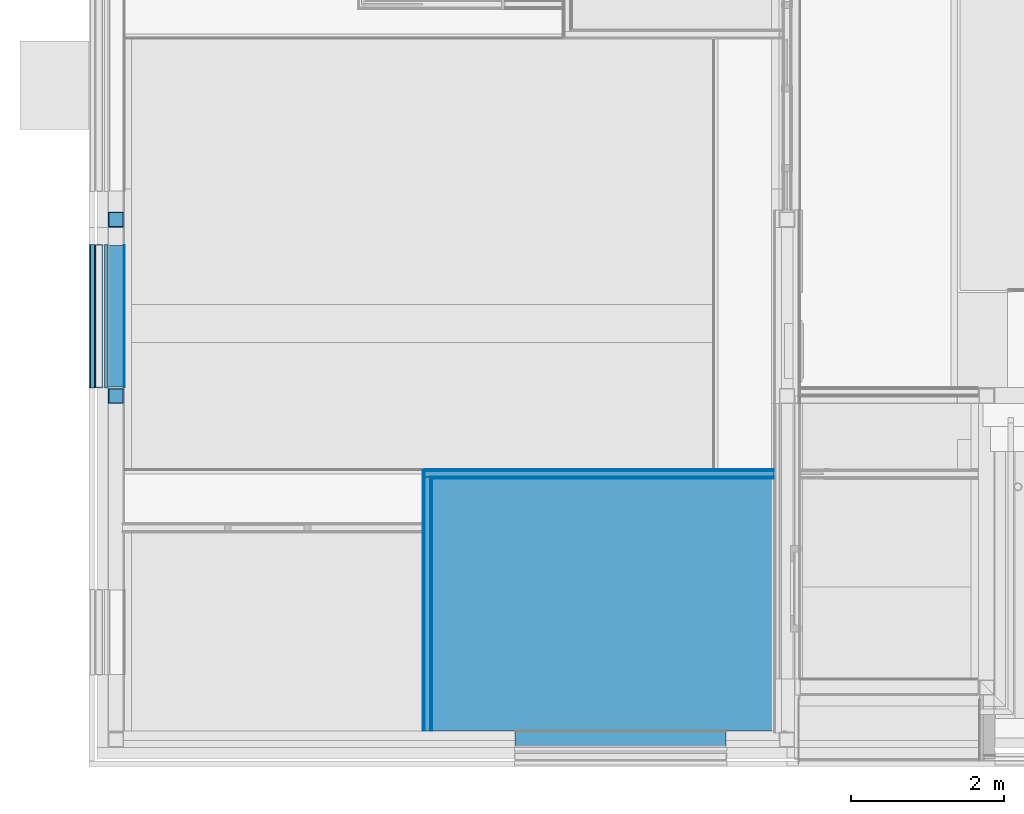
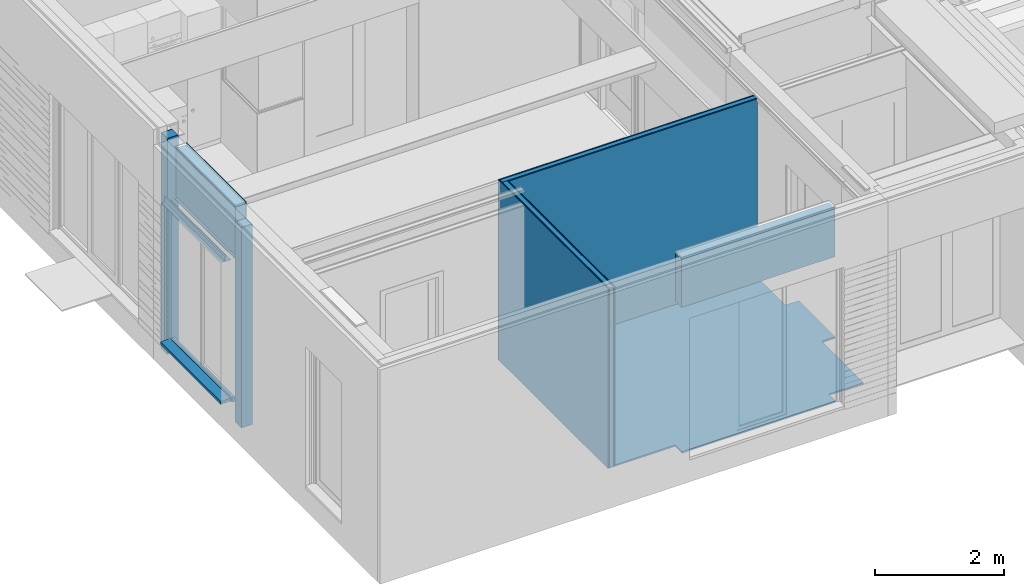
# One storey, part 39 of 165: 23 building element parts, 9 elements without a shape of their own.
"""IFC2X3 building model written with IfcOpenShell, lengths in millimetres."""

from ifc_helpers import new_model, entity, si_unit, converted_unit, derived_unit, money_unit, direction, frame, origin_with_axes, place, context, subcontext, project, spatial, faceted_brep, material, type_object, element, aggregate, save


model = new_model("IFC2X3")

# Units and contexts
model_context = context("Model", 3, precision=0.01, world=origin_with_axes(), true_north=direction((0.0, 1.0)))
body_context = subcontext(model_context, "Body", "Model", "MODEL_VIEW")
ifc_project = project(units=[si_unit("LENGTHUNIT", "METRE", prefix="MILLI"), si_unit("AREAUNIT", "SQUARE_METRE"), si_unit("VOLUMEUNIT", "CUBIC_METRE"), converted_unit("PLANEANGLEUNIT", "DEGREE", entity("IfcPlaneAngleMeasure", 0.0174532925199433), si_unit("PLANEANGLEUNIT", "RADIAN"), dimensions=[0, 0, 0, 0, 0, 0, 0]), money_unit("EUR"), converted_unit("TIMEUNIT", "Year", entity("IfcTimeMeasure", 31556926.0), si_unit("TIMEUNIT", "SECOND"), dimensions=[0, 0, 1, 0, 0, 0, 0]), si_unit("MASSUNIT", "GRAM", prefix="KILO"), si_unit("THERMODYNAMICTEMPERATUREUNIT", "DEGREE_CELSIUS"), si_unit("LUMINOUSINTENSITYUNIT", "LUMEN"), si_unit("ENERGYUNIT", "JOULE", prefix="MEGA"), derived_unit("THERMALCONDUCTANCEUNIT", [(si_unit("POWERUNIT", "WATT"), 1), (si_unit("LENGTHUNIT", "METRE"), -1), (si_unit("THERMODYNAMICTEMPERATUREUNIT", "KELVIN"), -1)]), derived_unit("SPECIFICHEATCAPACITYUNIT", [(si_unit("ENERGYUNIT", "JOULE"), 1), (si_unit("MASSUNIT", "GRAM", prefix="KILO"), -1), (si_unit("THERMODYNAMICTEMPERATUREUNIT", "KELVIN"), -1)]), derived_unit("MASSDENSITYUNIT", [(si_unit("MASSUNIT", "GRAM", prefix="KILO"), 1), (si_unit("VOLUMEUNIT", "CUBIC_METRE"), -1)])], contexts=[model_context])

# Site, building, storey
site_placement = place(None, origin_with_axes())
site = spatial("IfcSite", under=ifc_project, at=site_placement, Name="Site", CompositionType="ELEMENT")
building_placement = place(site_placement, origin_with_axes())
building = spatial("IfcBuilding", under=site, at=building_placement, Name="Naam gebouw", CompositionType="ELEMENT")
storey_placement = place(building_placement, origin_with_axes())
storey = spatial("IfcBuildingStorey", under=building, at=storey_placement, Name="Begane grond", CompositionType="ELEMENT", Elevation=0.0)

# Proxy, building element parts
building_element_proxy_type = type_object("IfcBuildingElementProxyType", Name="22 Metal stud 125 gips 125", PredefinedType="NOTDEFINED")
proxy_1_placement = place(storey_placement, frame((4099.999999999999, 3624.995712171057, -100.0), z_axis=(0.0, 0.0, 1.0), x_axis=(1.0, 0.0, 0.0)))
proxy_1 = element("IfcBuildingElementProxy", 1, at=proxy_1_placement, inside=storey, type_object=building_element_proxy_type, Name="_Wand-x")
ifc_material_1 = material(Name="Gipsplaat")
building_element_part_1_placement = place(proxy_1_placement, origin_with_axes())
building_element_part_1 = element("IfcBuildingElementPart", 2, at=building_element_part_1_placement, material=ifc_material_1, Name="Gipsplaat", context=body_context, shape_type="Brep", body=[
    faceted_brep([(4575.000000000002, -12.49999999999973, 3405.000002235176), (4575.000000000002, 0.0, 3405.000002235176), (4575.000000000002, 0.0, 3410.0), (4575.000000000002, -12.49999999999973, 3410.0), (4550.000000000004, 0.0, 3405.000002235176), (4550.000000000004, -12.50000000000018, 3405.000002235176), (4550.000000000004, 0.0, 3380.000002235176), (4575.000000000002, 0.0, 3380.000002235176), (4575.000000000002, 0.0, 0.0), (0.0, 0.0, 0.0), (0.0, 0.0, 3410.0), (0.0, -12.49999999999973, 3410.0), (0.0, -12.50000000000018, 0.0), (4575.000000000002, -12.50000000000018, 0.0), (4575.000000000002, -12.49999999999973, 3380.000002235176), (4550.000000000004, -12.50000000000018, 3380.000002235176)], [[[0, 1, 2, 3]], [[4, 1, 0, 5]], [[6, 7, 8, 9, 10, 2, 1, 4]], [[11, 3, 2, 10]], [[5, 0, 3, 11, 12, 13, 14, 15]], [[6, 4, 5, 15]], [[14, 7, 6, 15]], [[7, 14, 13, 8]], [[9, 8, 13, 12]], [[12, 11, 10, 9]]]),
])
ifc_material_2 = material(Name="ALG - LICHTE SCHEIDINGSWAND")
building_element_part_2_placement = place(proxy_1_placement, origin_with_axes())
building_element_part_2 = element("IfcBuildingElementPart", 3, at=building_element_part_2_placement, material=ifc_material_2, Name="ALG - LICHTE SCHEIDINGSWAND", context=body_context, shape_type="Brep", body=[
    faceted_brep([(4575.000000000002, -99.99999999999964, 3405.000002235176), (4575.000000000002, -24.99999999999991, 3405.000002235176), (4575.000000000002, -24.99999999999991, 3410.0), (4575.000000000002, -99.99999999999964, 3410.0), (4550.000000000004, -24.99999999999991, 3405.000002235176), (4550.000000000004, -100.0000000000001, 3405.000002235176), (4550.000000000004, -24.99999999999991, 3380.000002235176), (4575.000000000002, -24.99999999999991, 3380.000002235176), (4575.000000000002, -24.99999999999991, 0.0), (25.00000000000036, -24.99999999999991, 0.0), (25.00000000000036, -24.99999999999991, 3410.0), (25.00000000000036, -99.99999999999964, 3410.0), (25.00000000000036, -100.0000000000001, 0.0), (4575.000000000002, -100.0000000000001, 0.0), (4575.000000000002, -99.99999999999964, 3380.000002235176), (4550.000000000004, -100.0000000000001, 3380.000002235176)], [[[0, 1, 2, 3]], [[4, 1, 0, 5]], [[6, 7, 8, 9, 10, 2, 1, 4]], [[11, 3, 2, 10]], [[5, 0, 3, 11, 12, 13, 14, 15]], [[6, 4, 5, 15]], [[14, 7, 6, 15]], [[7, 14, 13, 8]], [[9, 8, 13, 12]], [[12, 11, 10, 9]]]),
])
building_element_part_3_placement = place(proxy_1_placement, origin_with_axes())
building_element_part_3 = element("IfcBuildingElementPart", 4, at=building_element_part_3_placement, material=ifc_material_1, Name="Gipsplaat", context=body_context, shape_type="Brep", body=[
    faceted_brep([(4575.000000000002, -112.4999999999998, 3405.000002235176), (4575.000000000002, -99.9999999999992, 3405.000002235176), (4575.000000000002, -99.9999999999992, 3410.0), (4575.000000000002, -112.4999999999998, 3410.0), (4550.000000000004, -99.9999999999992, 3405.000002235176), (4550.000000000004, -112.4999999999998, 3405.000002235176), (4550.000000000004, -99.9999999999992, 3380.000002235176), (4575.000000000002, -99.9999999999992, 3380.000002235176), (4575.000000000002, -100.0000000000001, 0.0), (99.99999999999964, -100.0000000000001, 0.0), (99.99999999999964, -99.99999999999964, 3410.0), (99.99999999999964, -112.4999999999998, 3410.0), (99.99999999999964, -112.4999999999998, 0.0), (4575.000000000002, -112.4999999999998, 0.0), (4575.000000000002, -112.4999999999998, 3380.000002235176), (4550.000000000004, -112.4999999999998, 3380.000002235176)], [[[0, 1, 2, 3]], [[4, 1, 0, 5]], [[6, 7, 8, 9, 10, 2, 1, 4]], [[11, 3, 2, 10]], [[5, 0, 3, 11, 12, 13, 14, 15]], [[6, 4, 5, 15]], [[14, 7, 6, 15]], [[7, 14, 13, 8]], [[9, 8, 13, 12]], [[12, 11, 10, 9]]]),
])
building_element_part_4_placement = place(proxy_1_placement, origin_with_axes())
building_element_part_4 = element("IfcBuildingElementPart", 5, at=building_element_part_4_placement, material=ifc_material_1, Name="Gipsplaat", context=body_context, shape_type="Brep", body=[
    faceted_brep([(4575.000000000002, -24.99999999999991, 3405.000002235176), (4575.000000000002, -12.49999999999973, 3405.000002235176), (4575.000000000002, -12.49999999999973, 3410.0), (4575.000000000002, -24.99999999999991, 3410.0), (4550.000000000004, -12.49999999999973, 3405.000002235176), (4550.000000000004, -24.99999999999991, 3405.000002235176), (4550.000000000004, -12.49999999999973, 3380.000002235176), (4575.000000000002, -12.49999999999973, 3380.000002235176), (4575.000000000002, -12.50000000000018, 0.0), (12.50000000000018, -12.50000000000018, 0.0), (12.50000000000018, -12.49999999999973, 3410.0), (12.50000000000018, -24.99999999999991, 3410.0), (12.50000000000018, -24.99999999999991, 0.0), (4575.000000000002, -24.99999999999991, 0.0), (4575.000000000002, -24.99999999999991, 3380.000002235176), (4550.000000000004, -24.99999999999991, 3380.000002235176)], [[[0, 1, 2, 3]], [[4, 1, 0, 5]], [[6, 7, 8, 9, 10, 2, 1, 4]], [[11, 3, 2, 10]], [[5, 0, 3, 11, 12, 13, 14, 15]], [[6, 4, 5, 15]], [[14, 7, 6, 15]], [[7, 14, 13, 8]], [[9, 8, 13, 12]], [[12, 11, 10, 9]]]),
])
building_element_part_5_placement = place(proxy_1_placement, origin_with_axes())
building_element_part_5 = element("IfcBuildingElementPart", 6, at=building_element_part_5_placement, material=ifc_material_1, Name="Gipsplaat", context=body_context, shape_type="Brep", body=[
    faceted_brep([(4575.000000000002, -124.9999999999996, 3405.000002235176), (4575.000000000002, -112.4999999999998, 3405.000002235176), (4575.000000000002, -112.4999999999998, 3410.0), (4575.000000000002, -124.9999999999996, 3410.0), (4550.000000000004, -112.5000000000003, 3405.000002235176), (4550.000000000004, -125.0, 3405.000002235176), (4550.000000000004, -112.5000000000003, 3380.000002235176), (4575.000000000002, -112.4999999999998, 3380.000002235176), (4575.000000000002, -112.4999999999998, 0.0), (112.4999999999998, -112.4999999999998, 0.0), (112.4999999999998, -112.4999999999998, 3410.0), (112.4999999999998, -124.9999999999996, 3410.0), (112.4999999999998, -125.0, 0.0), (4575.000000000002, -125.0, 0.0), (4575.000000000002, -124.9999999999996, 3380.000002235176), (4550.000000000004, -125.0, 3380.000002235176)], [[[0, 1, 2, 3]], [[4, 1, 0, 5]], [[6, 7, 8, 9, 10, 2, 1, 4]], [[11, 3, 2, 10]], [[5, 0, 3, 11, 12, 13, 14, 15]], [[6, 4, 5, 15]], [[14, 7, 6, 15]], [[7, 14, 13, 8]], [[9, 8, 13, 12]], [[12, 11, 10, 9]]]),
])
aggregate(proxy_1, [building_element_part_1, building_element_part_2, building_element_part_3, building_element_part_4, building_element_part_5])

proxy_2_placement = place(storey_placement, frame((4099.999999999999, 3624.995712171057, -100.0), z_axis=(0.0, 0.0, 1.0), x_axis=(0.0, -1.0, 0.0)))
proxy_2 = element("IfcBuildingElementProxy", 7, at=proxy_2_placement, inside=storey, type_object=building_element_proxy_type, Name="_Wand-x")
building_element_part_6_placement = place(proxy_2_placement, origin_with_axes())
building_element_part_6 = element("IfcBuildingElementPart", 8, at=building_element_part_6_placement, material=ifc_material_1, Name="Gipsplaat", context=body_context, shape_type="Brep", body=[
    faceted_brep([(3410.995712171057, 99.99999999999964, 0.0), (112.4999999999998, 99.99999999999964, 0.0), (112.4999999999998, 112.4999999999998, 0.0), (3410.995712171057, 112.4999999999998, 0.0), (3410.995712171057, 99.99999999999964, 3410.0), (112.4999999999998, 100.0000000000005, 3410.0), (112.4999999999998, 112.4999999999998, 3410.0), (3410.995712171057, 112.4999999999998, 3410.0)], [[[0, 1, 2, 3]], [[4, 5, 1, 0]], [[2, 1, 5, 6]], [[3, 2, 6, 7]], [[3, 7, 4, 0]], [[7, 6, 5, 4]]]),
])
building_element_part_7_placement = place(proxy_2_placement, origin_with_axes())
building_element_part_7 = element("IfcBuildingElementPart", 9, at=building_element_part_7_placement, material=ifc_material_2, Name="ALG - LICHTE SCHEIDINGSWAND", context=body_context, shape_type="Brep", body=[
    faceted_brep([(3410.995712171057, 24.99999999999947, 0.0), (100.0000000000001, 25.00000000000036, 0.0), (100.0000000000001, 99.99999999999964, 0.0), (3410.995712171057, 99.99999999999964, 0.0), (3410.995712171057, 24.99999999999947, 3410.0), (100.0000000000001, 25.00000000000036, 3410.0), (100.0000000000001, 100.0000000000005, 3410.0), (3410.995712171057, 99.99999999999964, 3410.0)], [[[0, 1, 2, 3]], [[4, 5, 1, 0]], [[2, 1, 5, 6]], [[3, 2, 6, 7]], [[3, 7, 4, 0]], [[7, 6, 5, 4]]]),
])
building_element_part_8_placement = place(proxy_2_placement, origin_with_axes())
building_element_part_8 = element("IfcBuildingElementPart", 10, at=building_element_part_8_placement, material=ifc_material_1, Name="Gipsplaat", context=body_context, shape_type="Brep", body=[
    faceted_brep([(3410.995712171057, 12.49999999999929, 0.0), (24.99999999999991, 12.50000000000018, 0.0), (24.99999999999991, 25.00000000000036, 0.0), (3410.995712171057, 24.99999999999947, 0.0), (3410.995712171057, 12.49999999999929, 3410.0), (24.99999999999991, 12.50000000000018, 3410.0), (24.99999999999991, 25.00000000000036, 3410.0), (3410.995712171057, 24.99999999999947, 3410.0)], [[[0, 1, 2, 3]], [[4, 5, 1, 0]], [[2, 1, 5, 6]], [[3, 2, 6, 7]], [[3, 7, 4, 0]], [[7, 6, 5, 4]]]),
])
building_element_part_9_placement = place(proxy_2_placement, origin_with_axes())
building_element_part_9 = element("IfcBuildingElementPart", 11, at=building_element_part_9_placement, material=ifc_material_1, Name="Gipsplaat", context=body_context, shape_type="Brep", body=[
    faceted_brep([(3410.995712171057, 0.0, 0.0), (12.50000000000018, 0.0, 0.0), (12.50000000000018, 12.50000000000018, 0.0), (3410.995712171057, 12.49999999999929, 0.0), (3410.995712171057, 0.0, 3410.0), (12.50000000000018, 0.0, 3410.0), (12.50000000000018, 12.50000000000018, 3410.0), (3410.995712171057, 12.49999999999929, 3410.0)], [[[0, 1, 2, 3]], [[4, 5, 1, 0]], [[2, 1, 5, 6]], [[3, 2, 6, 7]], [[3, 7, 4, 0]], [[7, 6, 5, 4]]]),
])
building_element_part_10_placement = place(proxy_2_placement, origin_with_axes())
building_element_part_10 = element("IfcBuildingElementPart", 12, at=building_element_part_10_placement, material=ifc_material_1, Name="Gipsplaat", context=body_context, shape_type="Brep", body=[
    faceted_brep([(3410.995712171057, 112.4999999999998, 0.0), (125.0, 112.4999999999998, 0.0), (125.0, 125.0, 0.0), (3410.995712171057, 124.9999999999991, 0.0), (3410.995712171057, 112.4999999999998, 3410.0), (125.0, 112.4999999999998, 3410.0), (125.0, 125.0, 3410.0), (3410.995712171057, 125.0, 3410.0)], [[[0, 1, 2, 3]], [[4, 5, 1, 0]], [[2, 1, 5, 6]], [[3, 2, 6, 7]], [[3, 7, 4, 0]], [[7, 6, 5, 4]]]),
])
aggregate(proxy_2, [building_element_part_6, building_element_part_7, building_element_part_8, building_element_part_9, building_element_part_10])

# Column, building element parts
column_type = type_object("IfcColumnType", Name="200X200X10 200 x 200", PredefinedType="COLUMN")
column_1_placement = place(storey_placement, frame((99.99999999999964, 4579.999999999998, -480.0), z_axis=(0.0, 0.0, 1.0), x_axis=(1.0, 0.0, 0.0)))
column_1 = element("IfcColumn", 13, at=column_1_placement, inside=storey, type_object=column_type, Name="28_Kolom-x", ObjectType="COLUMN")
ifc_material_3 = material(Name="Beton gewapend C")
building_element_part_11_placement = place(column_1_placement, origin_with_axes())
building_element_part_11 = element("IfcBuildingElementPart", 14, at=building_element_part_11_placement, material=ifc_material_3, Name="Beton gewapend C", context=body_context, shape_type="Brep", body=[
    faceted_brep([(-89.99999999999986, 89.99999999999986, 3770.0), (89.99999999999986, 89.99999999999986, 3770.0), (89.99999999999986, 89.99999999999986, 0.0), (-89.99999999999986, 89.99999999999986, 0.0), (89.99999999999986, -89.99999999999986, 3770.0), (-89.99999999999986, -89.99999999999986, 3770.0), (89.99999999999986, -89.99999999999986, 0.0), (-89.99999999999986, -89.99999999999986, 0.0)], [[[0, 1, 2, 3]], [[4, 1, 0, 5]], [[1, 4, 6, 2]], [[2, 6, 7, 3]], [[5, 0, 3, 7]], [[4, 5, 7, 6]]]),
    faceted_brep([(89.99999999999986, -89.99999999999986, 3785.0), (89.99999999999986, 89.99999999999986, 3785.0), (89.99999999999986, 89.99999999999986, 3790.0), (89.99999999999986, -89.99999999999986, 3790.0), (-89.99999999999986, 89.99999999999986, 3785.0), (-89.99999999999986, -89.99999999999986, 3785.0), (-89.99999999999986, 89.99999999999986, 3790.0), (-89.99999999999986, -89.99999999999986, 3790.0)], [[[0, 1, 2, 3]], [[4, 1, 0, 5]], [[1, 4, 6, 2]], [[2, 6, 7, 3]], [[5, 0, 3, 7]], [[4, 5, 7, 6]]]),
])
ifc_material_4 = material(Name="Metaal - Staal C")
building_element_part_12_placement = place(column_1_placement, origin_with_axes())
building_element_part_12 = element("IfcBuildingElementPart", 15, at=building_element_part_12_placement, material=ifc_material_4, Name="Metaal - Staal C", context=body_context, shape_type="Brep", body=[
    faceted_brep([(-100.0, -99.99999999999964, 0.0), (100.0, -99.99999999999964, 0.0), (100.0, -99.99999999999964, 3790.0), (-100.0, -99.99999999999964, 3790.0), (-100.0, 99.99999999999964, 0.0), (100.0, 99.99999999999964, 0.0), (-90.00000000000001, -89.99999999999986, 0.0), (90.00000000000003, -89.99999999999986, 0.0), (90.00000000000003, 89.99999999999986, 0.0), (-90.00000000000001, 89.99999999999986, 0.0), (100.0, 99.99999999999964, 3790.0), (-100.0, 99.99999999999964, 3790.0), (-90.00000000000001, -89.99999999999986, 3790.0), (-90.00000000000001, 89.99999999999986, 3790.0), (90.00000000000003, 89.99999999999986, 3790.0), (90.00000000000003, -89.99999999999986, 3790.0)], [[[0, 1, 2, 3]], [[0, 4, 5, 1], [6, 7, 8, 9]], [[1, 5, 10, 2]], [[3, 2, 10, 11], [12, 13, 14, 15]], [[4, 0, 3, 11]], [[5, 4, 11, 10]], [[7, 6, 12, 15]], [[8, 7, 15, 14]], [[9, 8, 14, 13]], [[6, 9, 13, 12]]]),
])
aggregate(column_1, [building_element_part_11, building_element_part_12])

# Beam, building element parts
beam_type_1 = type_object("IfcBeamType", Name="41 Latei/geveldrager 158 x 112", PredefinedType="BEAM")
beam_1_placement = place(storey_placement, frame((-179.9999850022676, 4684.999999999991, 2610.0), z_axis=(0.0, 0.0, 1.0), x_axis=(1.0, 0.0, 0.0)))
beam_1 = element("IfcBeam", 16, at=beam_1_placement, inside=storey, type_object=beam_type_1, Name="_Regenwaterafvoer-x", ObjectType="BEAM")
building_element_part_13_placement = place(beam_1_placement, origin_with_axes())
building_element_part_13 = element("IfcBuildingElementPart", 17, at=building_element_part_13_placement, material=ifc_material_4, Name="Metaal - Staal C", context=body_context, shape_type="Brep", body=[
    faceted_brep([(3.000000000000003, 1870.000000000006, -3.000000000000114), (108.0, 1870.000000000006, -3.000000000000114), (108.0, 0.0, -3.000000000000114), (3.000000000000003, 0.0, -3.000000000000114), (3.000000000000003, 1870.000000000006, 0.0), (108.0, 1870.000000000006, 0.0), (108.0, 0.0, 0.0), (3.000000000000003, 0.0, 0.0)], [[[0, 1, 2, 3]], [[0, 4, 5, 1]], [[1, 5, 6, 2]], [[3, 2, 6, 7]], [[4, 0, 3, 7]], [[5, 4, 7, 6]]]),
])
building_element_part_14_placement = place(beam_1_placement, origin_with_axes())
building_element_part_14 = element("IfcBuildingElementPart", 18, at=building_element_part_14_placement, material=ifc_material_4, Name="Metaal - Staal C", context=body_context, shape_type="Brep", body=[
    faceted_brep([(-49.99999999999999, 1870.000000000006, 6.55651533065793e-07), (-49.99999999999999, 1870.000000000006, -3.000000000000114), (-49.99999999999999, 0.0, -3.000000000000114), (-49.99999999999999, 0.0, 6.55651533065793e-07), (-5.960468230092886e-08, 1870.000000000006, 6.55651533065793e-07), (-5.960468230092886e-08, 1870.000000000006, 99.3417707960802), (16.54654975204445, 1870.000000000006, 108.894926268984), (18.04655007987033, 1870.000000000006, 106.296849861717), (3.000000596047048, 1870.000000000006, 96.99999988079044), (3.000000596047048, 1870.000000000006, 6.55651533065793e-07), (3.000000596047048, 1870.000000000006, -3.000000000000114), (3.000000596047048, 0.0, -3.000000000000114), (3.000000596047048, 0.0, 6.55651533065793e-07), (3.000000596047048, 0.0, 96.99999988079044), (18.04655007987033, 0.0, 106.296849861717), (16.54654975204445, 0.0, 108.894926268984), (-5.960468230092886e-08, 0.0, 99.3417707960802), (-5.960468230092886e-08, 0.0, 6.55651533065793e-07)], [[[0, 1, 2, 3]], [[0, 4, 5, 6, 7, 8, 9, 10, 1]], [[1, 10, 11, 2]], [[3, 2, 11, 12, 13, 14, 15, 16, 17]], [[4, 0, 3, 17]], [[5, 4, 17, 16]], [[6, 5, 16, 15]], [[7, 6, 15, 14]], [[8, 7, 14, 13]], [[9, 8, 13, 12]], [[10, 9, 12, 11]]]),
])
aggregate(beam_1, [building_element_part_13, building_element_part_14])

# Column, building element parts
column_2_placement = place(storey_placement, frame((100.000000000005, 6879.999999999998, -480.0), z_axis=(0.0, 0.0, 1.0), x_axis=(1.0, 0.0, 0.0)))
column_2 = element("IfcColumn", 19, at=column_2_placement, inside=storey, type_object=column_type, Name="28_Kolom-x", ObjectType="COLUMN")
building_element_part_15_placement = place(column_2_placement, origin_with_axes())
building_element_part_15 = element("IfcBuildingElementPart", 20, at=building_element_part_15_placement, material=ifc_material_4, Name="Metaal - Staal C", context=body_context, shape_type="Brep", body=[
    faceted_brep([(-100.0, -99.99999999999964, 0.0), (100.0, -99.99999999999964, 0.0), (100.0, -99.99999999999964, 4079.999999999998), (-100.0, -99.99999999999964, 4079.999999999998), (-100.0, 99.99999999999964, 0.0), (100.0, 99.99999999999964, 0.0), (-90.00000000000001, -89.99999999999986, 0.0), (90.00000000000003, -89.99999999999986, 0.0), (90.00000000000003, 89.99999999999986, 0.0), (-90.00000000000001, 89.99999999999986, 0.0), (100.0, 99.99999999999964, 4079.999999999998), (-100.0, 99.99999999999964, 4079.999999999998), (-90.00000000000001, -89.99999999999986, 4079.999999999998), (-90.00000000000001, 89.99999999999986, 4079.999999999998), (90.00000000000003, 89.99999999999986, 4079.999999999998), (90.00000000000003, -89.99999999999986, 4079.999999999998)], [[[0, 1, 2, 3]], [[0, 4, 5, 1], [6, 7, 8, 9]], [[1, 5, 10, 2]], [[3, 2, 10, 11], [12, 13, 14, 15]], [[4, 0, 3, 11]], [[5, 4, 11, 10]], [[7, 6, 12, 15]], [[8, 7, 15, 14]], [[9, 8, 14, 13]], [[6, 9, 13, 12]]]),
])
building_element_part_16_placement = place(column_2_placement, origin_with_axes())
building_element_part_16 = element("IfcBuildingElementPart", 21, at=building_element_part_16_placement, material=ifc_material_3, Name="Beton gewapend C", context=body_context, shape_type="Brep", body=[
    faceted_brep([(-89.99999999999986, 90.00000000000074, 3770.0), (89.99999999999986, 90.00000000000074, 3770.0), (89.99999999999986, 90.00000000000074, 0.0), (-89.99999999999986, 90.00000000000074, 0.0), (89.99999999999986, -89.99999999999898, 3770.0), (-89.99999999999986, -89.99999999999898, 3770.0), (89.99999999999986, -89.99999999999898, 0.0), (-89.99999999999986, -89.99999999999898, 0.0)], [[[0, 1, 2, 3]], [[4, 1, 0, 5]], [[1, 4, 6, 2]], [[2, 6, 7, 3]], [[5, 0, 3, 7]], [[4, 5, 7, 6]]]),
    faceted_brep([(89.99999999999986, 90.00000000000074, 4020.0), (89.99999999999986, -89.99999999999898, 4020.0), (89.99999999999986, -89.99999999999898, 3785.0), (89.99999999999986, 90.00000000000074, 3785.0), (-89.99999999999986, 90.00000000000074, 4020.0), (-89.99999999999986, -89.99999999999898, 4020.0), (-89.99999999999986, -89.99999999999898, 3785.0), (-89.99999999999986, 90.00000000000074, 3785.0)], [[[0, 1, 2, 3]], [[1, 0, 4, 5]], [[1, 5, 6, 2]], [[7, 3, 2, 6]], [[4, 0, 3, 7]], [[5, 4, 7, 6]]]),
    faceted_brep([(-89.99999999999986, 90.00000000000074, 4059.999999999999), (89.99999999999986, 90.00000000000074, 4059.999999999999), (89.99999999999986, 90.00000000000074, 4050.0), (-89.99999999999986, 90.00000000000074, 4050.0), (89.99999999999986, -89.99999999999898, 4059.999999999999), (-89.99999999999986, -89.99999999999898, 4059.999999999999), (89.99999999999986, -89.99999999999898, 4050.0), (-89.99999999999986, -89.99999999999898, 4050.0)], [[[0, 1, 2, 3]], [[4, 1, 0, 5]], [[1, 4, 6, 2]], [[3, 2, 6, 7]], [[5, 0, 3, 7]], [[4, 5, 7, 6]]]),
    faceted_brep([(89.99999999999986, -89.99999999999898, 4074.999999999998), (89.99999999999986, 90.00000000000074, 4074.999999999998), (89.99999999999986, 90.00000000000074, 4079.999999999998), (89.99999999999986, -89.99999999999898, 4079.999999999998), (-89.99999999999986, 90.00000000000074, 4074.999999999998), (-89.99999999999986, -89.99999999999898, 4074.999999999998), (-89.99999999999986, 90.00000000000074, 4079.999999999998), (-89.99999999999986, -89.99999999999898, 4079.999999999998)], [[[0, 1, 2, 3]], [[4, 1, 0, 5]], [[1, 4, 6, 2]], [[2, 6, 7, 3]], [[5, 0, 3, 7]], [[4, 5, 7, 6]]]),
])
aggregate(column_2, [building_element_part_15, building_element_part_16])

# Beam, building element parts
beam_type_2 = type_object("IfcBeamType", Name="31 Betondorpel 250 x 90", PredefinedType="BEAM")
beam_2_placement = place(storey_placement, frame((-249.9999999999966, 4684.999999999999, -100.0000000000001), z_axis=(0.0, 0.0, 1.0), x_axis=(1.0, 0.0, 0.0)))
beam_2 = element("IfcBeam", 22, at=beam_2_placement, inside=storey, type_object=beam_type_2, Name="_Regenwaterafvoer-x", ObjectType="BEAM")
ifc_material_5 = material(Name="Isolatie - Kunststof hard")
building_element_part_17_placement = place(beam_2_placement, origin_with_axes())
building_element_part_17 = element("IfcBuildingElementPart", 23, at=building_element_part_17_placement, material=ifc_material_5, Name="Isolatie - Kunststof hard", context=body_context, shape_type="Brep", body=[
    faceted_brep([(200.0, 1869.999999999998, 0.0), (250.0, 1869.999999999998, 0.0), (250.0, 0.0, 0.0), (200.0, 0.0, 0.0), (200.0, 1869.999999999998, 30.04212815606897), (200.0, 1869.999999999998, 90.00000000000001), (250.0, 1869.999999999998, 90.00000000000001), (250.0, 0.0, 90.00000000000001), (200.0, 0.0, 90.00000000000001), (200.0, 0.0, 30.04212815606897)], [[[0, 1, 2, 3]], [[0, 4, 5, 6, 1]], [[1, 6, 7, 2]], [[3, 2, 7, 8, 9]], [[4, 0, 3, 9]], [[5, 4, 9, 8]], [[6, 5, 8, 7]]]),
])
ifc_material_6 = material(Name="Beton gewapend prefab")
building_element_part_18_placement = place(beam_2_placement, origin_with_axes())
building_element_part_18 = element("IfcBuildingElementPart", 24, at=building_element_part_18_placement, material=ifc_material_6, Name="Beton gewapend prefab", context=body_context, shape_type="Brep", body=[
    faceted_brep([(0.0, 1869.999999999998, 30.04212834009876), (170.0, 1869.999999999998, 30.04212834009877), (170.0, 0.0, 30.04212834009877), (0.0, 0.0, 30.04212834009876), (0.0, 1869.999999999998, 80.04212834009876), (170.0, 1869.999999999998, 90.04212834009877), (170.0, 1869.999999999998, 90.00000000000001), (170.0, 0.0, 90.00000000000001), (170.0, 0.0, 90.04212834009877), (0.0, 0.0, 80.04212834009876)], [[[0, 1, 2, 3]], [[0, 4, 5, 6, 1]], [[1, 6, 7, 2]], [[3, 2, 7, 8, 9]], [[4, 0, 3, 9]], [[5, 4, 9, 8]], [[6, 5, 8, 7]]]),
])
aggregate(beam_2, [building_element_part_17, building_element_part_18])

# Slab, building element part
slab_type = type_object("IfcSlabType", Name="43 Zwevende dekvloer 100", PredefinedType="NOTDEFINED")
slab_placement = place(storey_placement, frame((8675.000006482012, 3499.995697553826, 0.0), z_axis=(0.0, 0.0, 1.0), x_axis=(1.0, 0.0, 0.0)))
slab = element("IfcSlab", 25, at=slab_placement, inside=storey, type_object=slab_type, Name="_Vloer-x", PredefinedType="NOTDEFINED")
ifc_material_7 = material(Name="Isolatie - XPS zwevende dekvloer")
building_element_part_19_placement = place(slab_placement, origin_with_axes())
building_element_part_19 = element("IfcBuildingElementPart", 26, at=building_element_part_19_placement, material=ifc_material_7, Name="Isolatie - XPS zwevende dekvloer", context=body_context, shape_type="Brep", body=[
    faceted_brep([(0.0, 0.0, -100.0), (-4450.000006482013, 0.0, -100.0), (-4450.000006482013, 0.0, -70.0), (0.0, 0.0, -70.0), (0.0, -866.7784783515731, -100.0), (237.9999935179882, -866.7784783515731, -100.0), (237.9999935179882, -1996.778544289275, -100.0), (0.0, -1996.778544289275, -100.0), (0.0, -3285.995698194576, -100.0), (-619.0000064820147, -3285.995698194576, -100.0), (-619.0000064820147, -3499.995697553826, -100.0), (-3369.000006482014, -3499.995697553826, -100.0), (-3369.000006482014, -3285.995698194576, -100.0), (-4450.000006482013, -3285.995698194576, -100.0), (-4450.000006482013, -3285.995698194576, -70.0), (-3369.000006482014, -3285.995698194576, -70.0), (-3369.000006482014, -3499.995697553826, -70.0), (-619.0000064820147, -3499.995697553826, -70.0), (-619.0000064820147, -3285.995698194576, -70.0), (0.0, -3285.995698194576, -70.0), (0.0, -1996.778544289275, -70.0), (237.9999935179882, -1996.778544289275, -70.0), (237.9999935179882, -866.7784783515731, -70.0), (0.0, -866.7784783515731, -70.0)], [[[0, 1, 2, 3]], [[0, 4, 5, 6, 7, 8, 9, 10, 11, 12, 13, 1]], [[1, 13, 14, 2]], [[3, 2, 14, 15, 16, 17, 18, 19, 20, 21, 22, 23]], [[4, 0, 3, 23]], [[5, 4, 23, 22]], [[6, 5, 22, 21]], [[7, 6, 21, 20]], [[8, 7, 20, 19]], [[9, 8, 19, 18]], [[10, 9, 18, 17]], [[11, 10, 17, 16]], [[12, 11, 16, 15]], [[13, 12, 15, 14]]]),
])
aggregate(slab, [building_element_part_19])

# Beam, building element parts
beam_type_3 = type_object("IfcBeamType", Name="31 HSB boven kozijnen 214 x 1000", PredefinedType="BEAM")
beam_3_placement = place(storey_placement, frame((214.0000000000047, 6544.999999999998, 2600.000000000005), z_axis=(0.0, 0.0, 1.0), x_axis=(-1.0, 0.0, 0.0)))
beam_3 = element("IfcBeam", 27, at=beam_3_placement, inside=storey, type_object=beam_type_3, Name="28_Balk-x", ObjectType="BEAM")
building_element_part_20_placement = place(beam_3_placement, origin_with_axes())
building_element_part_20 = element("IfcBuildingElementPart", 28, at=building_element_part_20_placement, material=ifc_material_1, Name="Gipsplaat", context=body_context, shape_type="Brep", body=[
    faceted_brep([(11.99999661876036, 1850.0, 999.9999999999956), (-9.34170973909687e-06, 1850.0, 999.9999999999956), (-9.34170973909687e-06, 0.0, 999.9999999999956), (11.99999661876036, 0.0, 999.9999999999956), (11.99999661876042, 1850.0, 0.0), (-9.34170968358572e-06, 1850.0, 0.0), (-9.34170968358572e-06, 0.0, 0.0), (11.99999661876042, 0.0, 0.0)], [[[0, 1, 2, 3]], [[0, 4, 5, 1]], [[1, 5, 6, 2]], [[3, 2, 6, 7]], [[4, 0, 3, 7]], [[5, 4, 7, 6]]]),
])
building_element_part_21_placement = place(beam_3_placement, origin_with_axes())
building_element_part_21 = element("IfcBuildingElementPart", 29, at=building_element_part_21_placement, material=ifc_material_1, Name="Gipsplaat", context=body_context, shape_type="Brep", body=[
    faceted_brep([(11.99999661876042, 1850.0, 12.00000596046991), (11.99999661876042, 1850.0, 0.0), (11.99999661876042, 0.0, 0.0), (11.99999661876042, 0.0, 12.00000596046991), (214.0000025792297, 1850.0, 12.00000596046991), (214.0000025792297, 1850.0, 0.0), (214.0000025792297, 0.0, 0.0), (214.0000025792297, 0.0, 12.00000596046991)], [[[0, 1, 2, 3]], [[0, 4, 5, 1]], [[1, 5, 6, 2]], [[3, 2, 6, 7]], [[4, 0, 3, 7]], [[5, 4, 7, 6]]]),
])
ifc_material_8 = material(Name="ALG - ISOLATIE")
building_element_part_22_placement = place(beam_3_placement, origin_with_axes())
building_element_part_22 = element("IfcBuildingElementPart", 30, at=building_element_part_22_placement, material=ifc_material_8, Name="ALG - ISOLATIE", context=body_context, shape_type="Brep", body=[
    faceted_brep([(195.9999999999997, 1850.0, 49.99999999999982), (195.9999999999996, 1850.0, 961.9999999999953), (195.9999999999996, 0.0, 961.9999999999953), (195.9999999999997, 0.0, 49.99999999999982), (11.99999999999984, 1850.0, 49.99999999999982), (11.99999999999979, 1850.0, 961.9999999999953), (11.99999999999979, 0.0, 961.9999999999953), (11.99999999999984, 0.0, 49.99999999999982)], [[[0, 1, 2, 3]], [[0, 4, 5, 1]], [[1, 5, 6, 2]], [[3, 2, 6, 7]], [[4, 0, 3, 7]], [[5, 4, 7, 6]]]),
])
aggregate(beam_3, [building_element_part_20, building_element_part_21, building_element_part_22])

# Beam, building element part
beam_4_placement = place(storey_placement, frame((5305.999999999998, 214.0, 2600.000000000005), z_axis=(0.0, 0.0, 1.0), x_axis=(0.0, -1.0, 0.0)))
beam_4 = element("IfcBeam", 31, at=beam_4_placement, inside=storey, type_object=beam_type_3, Name="28_Balk-x", ObjectType="BEAM")
building_element_part_23_placement = place(beam_4_placement, origin_with_axes())
building_element_part_23 = element("IfcBuildingElementPart", 32, at=building_element_part_23_placement, material=ifc_material_8, Name="ALG - ISOLATIE", context=body_context, shape_type="Brep", body=[
    faceted_brep([(195.9999999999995, 2749.999999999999, 49.99999999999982), (195.9999999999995, 2749.999999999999, 961.9999999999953), (195.9999999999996, 0.0, 961.9999999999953), (195.9999999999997, 0.0, 49.99999999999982), (11.99999999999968, 2749.999999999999, 49.99999999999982), (11.99999999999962, 2749.999999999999, 961.9999999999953), (11.99999999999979, 0.0, 961.9999999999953), (11.99999999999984, 0.0, 49.99999999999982)], [[[0, 1, 2, 3]], [[0, 4, 5, 1]], [[1, 5, 6, 2]], [[3, 2, 6, 7]], [[4, 0, 3, 7]], [[5, 4, 7, 6]]]),
])
aggregate(beam_4, [building_element_part_23])

save(model, "model.ifc")
